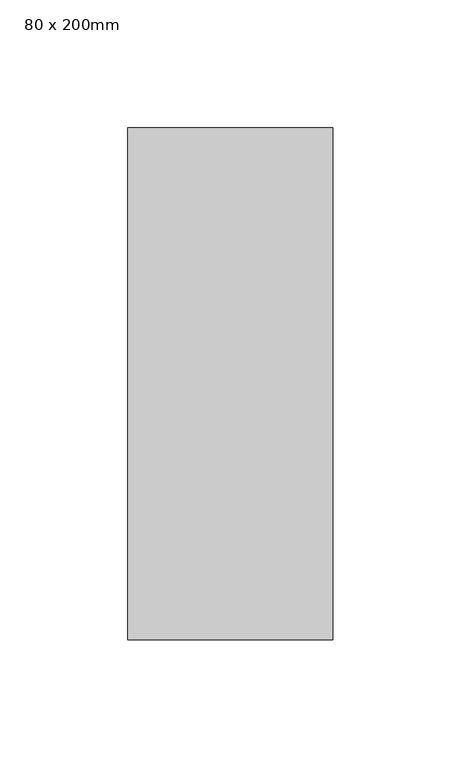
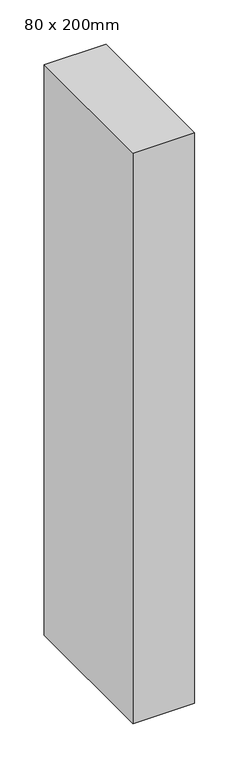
"""IFC4 building model written with IfcOpenShell, lengths in millimetres: member geometry, 矩形竖梃 : 80 x 200mm."""

from ifc_helpers import new_model, si_unit, frame, origin, place, context, project, spatial, polyline, outline, extrude, source, transform, mapped, element, save


def member_80_x_200mm_bcc0553d(model_context):
    return source(origin(), model_context, "Body", "SweptSolid", [
        extrude(outline(polyline([(40.0, 100.0), (40.0, -100.0), (-40.0, -100.0), (-40.0, 100.0), (40.0, 100.0)])), frame((0.0, 0.0, -782.9395637), z_axis=(0.0, 0.0, 1.0), x_axis=(1.0, 0.0, 0.0)), (0.0, 0.0, 1.0), 782.9395637),
    ])


if __name__ == "__main__":
    model = new_model("IFC4")
    model_context = context("Model", 3, world=origin())
    ifc_project = project(units=[si_unit("LENGTHUNIT", "METRE", prefix="MILLI")], contexts=[model_context])
    site = spatial("IfcSite", under=ifc_project)
    building = spatial("IfcBuilding", under=site)
    placement = place(None, origin())
    member_80_x_200mm_shape = member_80_x_200mm_bcc0553d(model_context)
    element("IfcMember", 1, ObjectType="矩形竖梃 : 80 x 200mm", at=placement, inside=building, context=model_context, shape_type="MappedRepresentation", body=[
        mapped(member_80_x_200mm_shape, transform((0.0, 0.0, 0.0), x_axis=(1.0, 0.0, 0.0), y_axis=(0.0, 1.0, 0.0), z_axis=(0.0, 0.0, 1.0))),
    ])
    save(model, "model.ifc")
